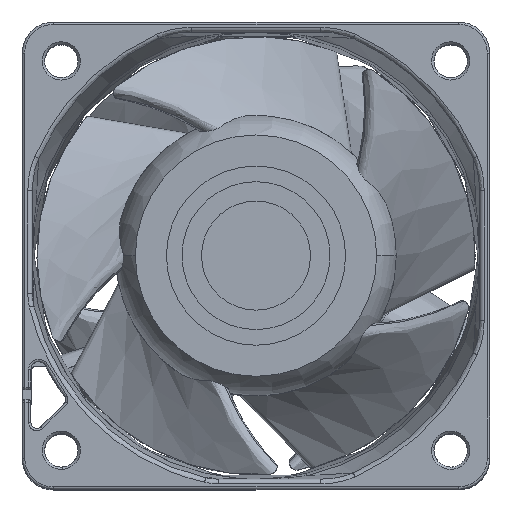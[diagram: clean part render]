
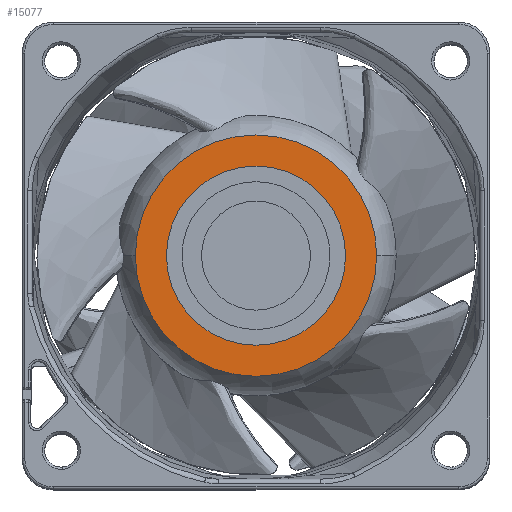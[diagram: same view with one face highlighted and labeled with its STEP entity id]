
A CAD part, top view. The second image highlights one B-rep face of the part: STEP entity #15077.
In plain terms, the highlighted planar face has unit normal (0, 0, 1).
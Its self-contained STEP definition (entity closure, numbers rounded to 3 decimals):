
#76 = ORIENTED_EDGE ( 'NONE', *, *, #7871, .F. ) ;
#495 = AXIS2_PLACEMENT_3D ( 'NONE', #16728, #36520, #19590 ) ;
#2304 = VERTEX_POINT ( 'NONE', #6519 ) ;
#2392 = EDGE_LOOP ( 'NONE', ( #76, #30441 ) ) ;
#3197 = CARTESIAN_POINT ( 'NONE',  ( 0., 0., 55. ) ) ;
#4122 = VERTEX_POINT ( 'NONE', #29354 ) ;
#4612 = DIRECTION ( 'NONE',  ( 0., 0., -1. ) ) ;
#6049 = PLANE ( 'NONE',  #23654 ) ;
#6515 = CIRCLE ( 'NONE', #33257, 15.5 ) ;
#6519 = CARTESIAN_POINT ( 'NONE',  ( -11.5, 0., 55. ) ) ;
#7104 = CARTESIAN_POINT ( 'NONE',  ( 0., 0., 55. ) ) ;
#7871 = EDGE_CURVE ( 'NONE', #4122, #2304, #34527, .T. ) ;
#8923 = DIRECTION ( 'NONE',  ( 0., 0., 1. ) ) ;
#9392 = VERTEX_POINT ( 'NONE', #10775 ) ;
#9971 = DIRECTION ( 'NONE',  ( 1., 0., 0. ) ) ;
#10775 = CARTESIAN_POINT ( 'NONE',  ( 15.5, 0., 55. ) ) ;
#10959 = EDGE_CURVE ( 'NONE', #29951, #9392, #6515, .T. ) ;
#13320 = DIRECTION ( 'NONE',  ( 0., 0., 1. ) ) ;
#13896 = EDGE_LOOP ( 'NONE', ( #35110, #35618 ) ) ;
#15077 = ADVANCED_FACE ( 'NONE', ( #15280, #30364 ), #6049, .T. ) ;
#15097 = CARTESIAN_POINT ( 'NONE',  ( -15.5, 0., 55. ) ) ;
#15280 = FACE_BOUND ( 'NONE', #2392, .T. ) ;
#16728 = CARTESIAN_POINT ( 'NONE',  ( 0., 0., 55. ) ) ;
#17696 = AXIS2_PLACEMENT_3D ( 'NONE', #7104, #26954, #9971 ) ;
#19590 = DIRECTION ( 'NONE',  ( -1., 0., 0. ) ) ;
#21085 = EDGE_CURVE ( 'NONE', #9392, #29951, #30200, .T. ) ;
#21623 = CARTESIAN_POINT ( 'NONE',  ( 0., 0., 55. ) ) ;
#23654 = AXIS2_PLACEMENT_3D ( 'NONE', #3197, #8923, #28772 ) ;
#24477 = DIRECTION ( 'NONE',  ( -1., 0., 0. ) ) ;
#25002 = EDGE_CURVE ( 'NONE', #2304, #4122, #25652, .T. ) ;
#25652 = CIRCLE ( 'NONE', #17696, 11.5 ) ;
#26954 = DIRECTION ( 'NONE',  ( 0., 0., 1. ) ) ;
#28025 = AXIS2_PLACEMENT_3D ( 'NONE', #30305, #13320, #33135 ) ;
#28772 = DIRECTION ( 'NONE',  ( 1., 0., 0. ) ) ;
#29354 = CARTESIAN_POINT ( 'NONE',  ( 11.5, 0., 55. ) ) ;
#29951 = VERTEX_POINT ( 'NONE', #15097 ) ;
#30200 = CIRCLE ( 'NONE', #495, 15.5 ) ;
#30305 = CARTESIAN_POINT ( 'NONE',  ( 0., 0., 55. ) ) ;
#30364 = FACE_OUTER_BOUND ( 'NONE', #13896, .T. ) ;
#30441 = ORIENTED_EDGE ( 'NONE', *, *, #25002, .F. ) ;
#33135 = DIRECTION ( 'NONE',  ( 1., 0., 0. ) ) ;
#33257 = AXIS2_PLACEMENT_3D ( 'NONE', #21623, #4612, #24477 ) ;
#34527 = CIRCLE ( 'NONE', #28025, 11.5 ) ;
#35110 = ORIENTED_EDGE ( 'NONE', *, *, #10959, .F. ) ;
#35618 = ORIENTED_EDGE ( 'NONE', *, *, #21085, .F. ) ;
#36520 = DIRECTION ( 'NONE',  ( 0., 0., -1. ) ) ;
